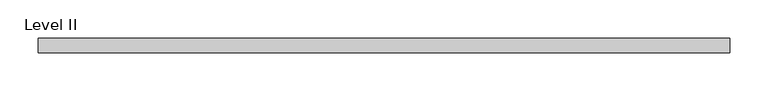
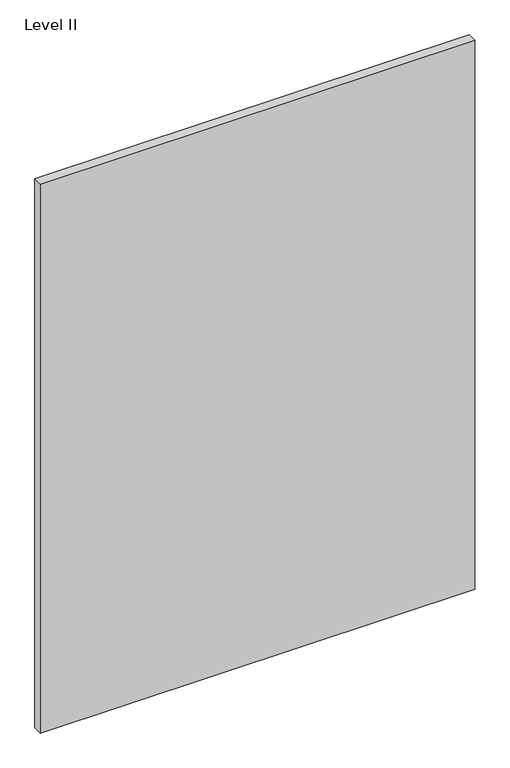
"""IFC4 building model written with IfcOpenShell, lengths in millimetres: proxy geometry, Panel-Fascia-Teknion-Altos : Level II."""

from ifc_helpers import new_model, si_unit, frame, origin, place, context, project, spatial, polyline, outline, extrude, source, transform, mapped, element, save


def level_ii_52e50c64(model_context):
    return source(origin(), model_context, "Body", "SweptSolid", [
        extrude(outline(polyline([(454.0305563, 9.525), (454.0305563, -9.525), (-454.0305562, -9.525), (-454.0305562, 9.525), (454.0305563, 9.525)])), frame((0.0, 0.0, 3.175), z_axis=(0.0, 0.0, 1.0), x_axis=(1.0, 0.0, 0.0)), (0.0, 0.0, 1.0), 1212.85),
    ])


if __name__ == "__main__":
    model = new_model("IFC4")
    model_context = context("Model", 3, world=origin())
    ifc_project = project(units=[si_unit("LENGTHUNIT", "METRE", prefix="MILLI")], contexts=[model_context])
    site = spatial("IfcSite", under=ifc_project)
    building = spatial("IfcBuilding", under=site)
    placement = place(None, origin())
    level_ii_shape = level_ii_52e50c64(model_context)
    element("IfcBuildingElementProxy", 1, Name="Panel-Fascia-Teknion-Altos : Level II", ObjectType="Panel-Fascia-Teknion-Altos : Level II", at=placement, inside=building, context=model_context, shape_type="MappedRepresentation", body=[
        mapped(level_ii_shape, transform((0.0, 0.0, 0.0), x_axis=(1.0, 0.0, 0.0), y_axis=(0.0, 1.0, 0.0), z_axis=(0.0, 0.0, 1.0))),
    ])
    save(model, "model.ifc")
